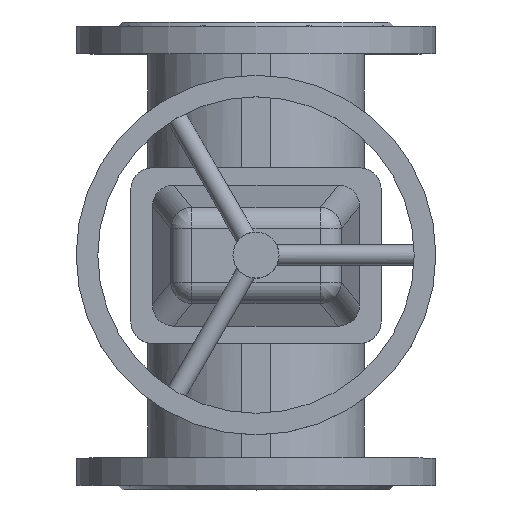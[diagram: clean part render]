
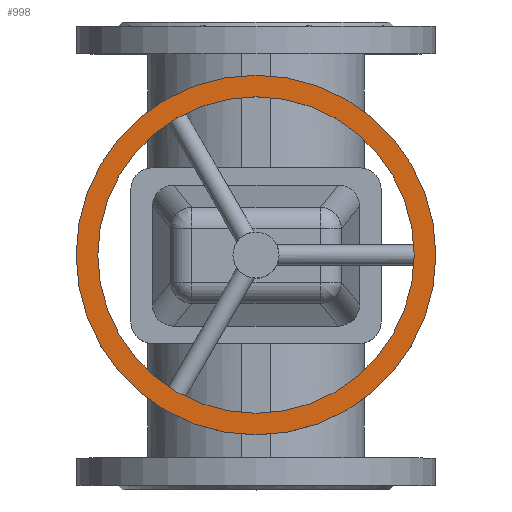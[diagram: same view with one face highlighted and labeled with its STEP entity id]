
A CAD part, top view. The second image highlights one B-rep face of the part: STEP entity #998.
In plain terms, the highlighted planar face has unit normal (0, 0, 1).
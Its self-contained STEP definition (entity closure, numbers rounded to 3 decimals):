
#998=ADVANCED_FACE('',(#2146,#2148),#2150,.T.);
#2146=FACE_BOUND('',#2147,.T.);
#2147=EDGE_LOOP('',(#2747));
#2148=FACE_BOUND('',#2149,.T.);
#2149=EDGE_LOOP('',(#2748));
#2150=PLANE('',#2151);
#2151=AXIS2_PLACEMENT_3D('',#2152,#2153,#2154);
#2152=CARTESIAN_POINT('',(0.,0.,385.5));
#2153=DIRECTION('',(0.,0.,1.));
#2154=DIRECTION('',(0.,-1.,0.));
#2747=ORIENTED_EDGE('',*,*,#3041,.T.);
#2748=ORIENTED_EDGE('',*,*,#3039,.T.);
#3039=EDGE_CURVE('',#3529,#3529,#3530,.F.);
#3041=EDGE_CURVE('',#3533,#3533,#3534,.T.);
#3529=VERTEX_POINT('',#5937);
#3530=CIRCLE('',#5938,110.);
#3533=VERTEX_POINT('',#5947);
#3534=CIRCLE('',#5948,125.);
#5937=CARTESIAN_POINT('',(0.,-110.,385.5));
#5938=AXIS2_PLACEMENT_3D('',#5939,#5940,#5941);
#5939=CARTESIAN_POINT('',(0.,0.,385.5));
#5940=DIRECTION('',(0.,0.,1.));
#5941=DIRECTION('',(0.,-1.,0.));
#5947=CARTESIAN_POINT('',(0.,-125.,385.5));
#5948=AXIS2_PLACEMENT_3D('',#5949,#5950,#5951);
#5949=CARTESIAN_POINT('',(0.,0.,385.5));
#5950=DIRECTION('',(0.,0.,1.));
#5951=DIRECTION('',(0.,-1.,0.));
